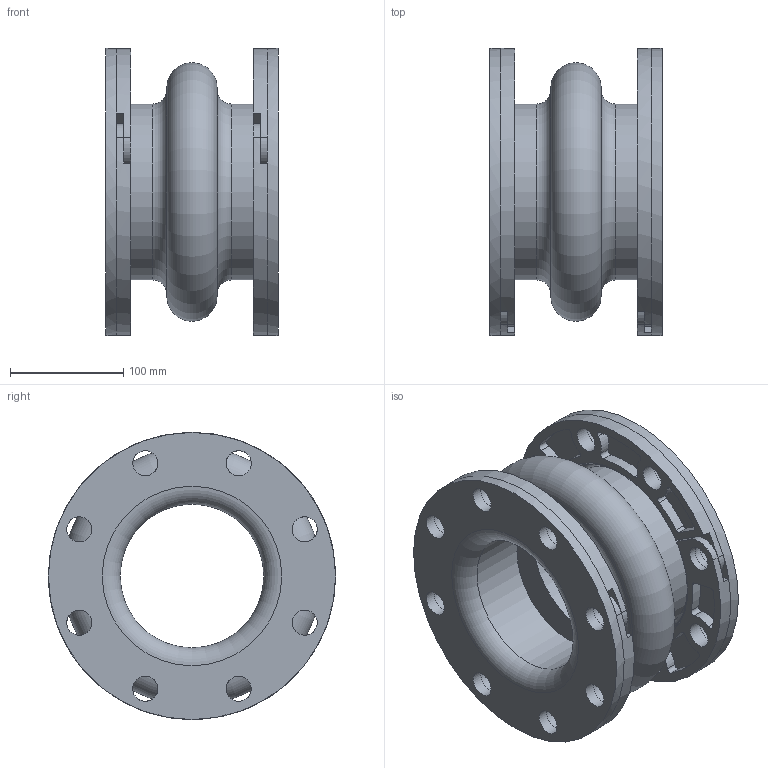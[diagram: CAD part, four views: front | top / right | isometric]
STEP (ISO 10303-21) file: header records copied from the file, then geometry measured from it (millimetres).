
FILE_DESCRIPTION(/* description */ (''),/* implementation_level */ '2;1');
FILE_NAME(/* name */ 'C:\001_Work\Designs\Mercer2014\MQInventor2014\RajR\500 Style\501\New folder\501 5IDx6FF.stp',/* time_stamp */ '2016-03-26T14:31:19-04:00',/* author */ ('rramoutar'),/* organization */ ('Mason Industries Inc.'),/* preprocessor_version */ 'ST-DEVELOPER v15.6',/* originating_system */ 'Autodesk Inventor 2015',/* authorisation */ '');
FILE_SCHEMA (('CONFIG_CONTROL_DESIGN'));
Length unit declared in the file: inch
Products named in the file (1): 501 5IDx6FF
Bounding box: 152.4 x 254 x 254 mm (x, y, z)
Volume: 2429627.8 mm3; surface area: 422797.6 mm2
Topology: 1 solids, 1 shells, 298 faces, 780 edges, 494 vertices
Faces by surface type: cylinder 186, plane 92, torus 16, cone 4
Full cylindrical faces by diameter (mm): 22.225 x36, 127 x2, 155.575 x2, 254 x2
Entity records: 9322 total; most frequent: DIRECTION 1722, CARTESIAN_POINT 1663, ORIENTED_EDGE 1380, AXIS2_PLACEMENT_3D 749, EDGE_CURVE 690, VERTEX_POINT 458, CIRCLE 450, EDGE_LOOP 404
